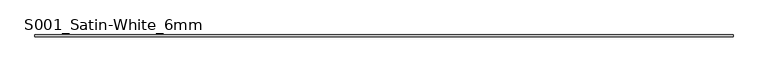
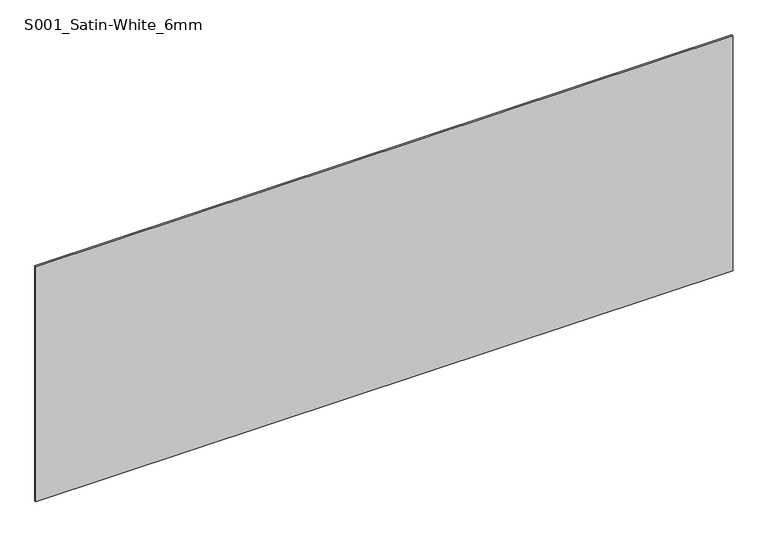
"""IFC4 building model written with IfcOpenShell, lengths in millimetres: plate geometry, Curtain-Panels_Outdoor-Material_HI-MACS_Solids : S001_Satin-White_6mm."""

from ifc_helpers import new_model, si_unit, origin, origin_with_axes, place, context, project, spatial, polyline, outline, extrude, source, transform, mapped, element, save


def s001_satin_white_6mm_b99eb2c8(model_context):
    return source(origin(), model_context, "Body", "SweptSolid", [
        extrude(outline(polyline([(1245.0, 3.0), (1245.0, -3.0), (-1245.0, -3.0), (-1245.0, 3.0), (1245.0, 3.0)])), origin_with_axes(), (0.0, 0.0, 1.0), 887.7043338),
    ])


if __name__ == "__main__":
    model = new_model("IFC4")
    model_context = context("Model", 3, world=origin())
    ifc_project = project(units=[si_unit("LENGTHUNIT", "METRE", prefix="MILLI")], contexts=[model_context])
    site = spatial("IfcSite", under=ifc_project)
    building = spatial("IfcBuilding", under=site)
    placement = place(None, origin())
    s001_satin_white_6mm_shape = s001_satin_white_6mm_b99eb2c8(model_context)
    element("IfcPlate", 1, ObjectType="Curtain-Panels_Outdoor-Material_HI-MACS_Solids : S001_Satin-White_6mm", at=placement, inside=building, context=model_context, shape_type="MappedRepresentation", body=[
        mapped(s001_satin_white_6mm_shape, transform((0.0, 0.0, 0.0), x_axis=(1.0, 0.0, 0.0), y_axis=(0.0, 1.0, 0.0), z_axis=(0.0, 0.0, 1.0))),
    ])
    save(model, "model.ifc")
